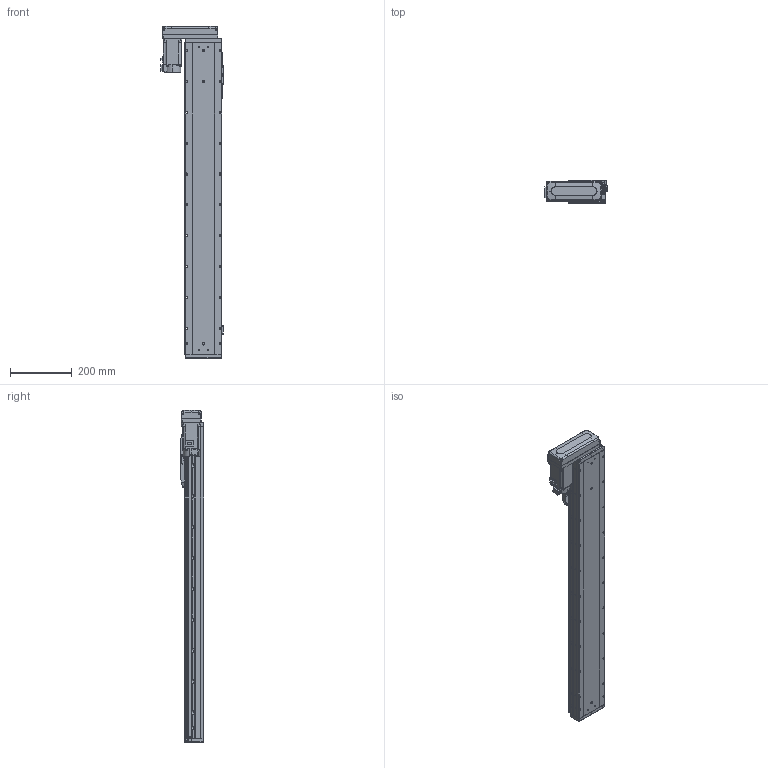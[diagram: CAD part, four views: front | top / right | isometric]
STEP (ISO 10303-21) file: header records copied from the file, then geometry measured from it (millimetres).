
FILE_DESCRIPTION (( 'STEP AP203' ), '1' );
FILE_NAME ('GTH12-800-BR-M40-C4.step', '2023-07-05T00:07:13', ( '微软用户' ), ( '微软中国' ), 'SwSTEP 2.0', 'SolidWorks 2020', '' );
FILE_SCHEMA (( 'CONFIG_CONTROL_DESIGN' ));
Length unit declared in the file: millimetre
Products named in the file (18): GTH50-024; GBT 70.1-M3℅6; GBT96.1-2002 3×0.8; GBT 70.1-M5×16; BTH-M3X5X6; GTH120-001_800; GBT 70.3-M3℅8; hg-kn43j_-s100_; GTH120-003; GTH80-022; CTHA86-033_M40B; GTH120-006; GTH80-028; GTH120-027-1_GTH120-027-2; GTH120-004; GTH50-023; GTH12-800-BR-M40-C4; GTH120-013
Assembly tree (59 placements, depth 2):
  GTH12-800-BR-M40-C4
    GTH120-001_800
    GTH120-003
    GTH120-006
    GTH120-004
    GTH120-013
    GBT 70.1-M3℅6  x14
    GBT 70.1-M5×16  x10
    GBT 70.3-M3℅8  x4
    GTH80-022
    GTH80-028  x2
    GTH50-023  x3
    GTH50-024  x3
    GBT96.1-2002 3×0.8  x6
    BTH-M3X5X6  x8
    hg-kn43j_-s100_
    CTHA86-033_M40B
    GTH120-027-1_GTH120-027-2
Bounding box: 203.5 x 76 x 1075.5 mm (x, y, z)
Volume: 7863366.3 mm3; surface area: 702107.6 mm2
Topology: 61 solids, 61 shells, 2497 faces, 5838 edges, 3583 vertices
Faces by surface type: plane 1278, cylinder 731, cone 300, torus 174, sphere 8, bspline 6
Entity records: 47248 total; most frequent: CARTESIAN_POINT 8004, DIRECTION 7842, ORIENTED_EDGE 7286, EDGE_CURVE 3643, AXIS2_PLACEMENT_3D 2742, VECTOR 2358, LINE 2358, VERTEX_POINT 2304
